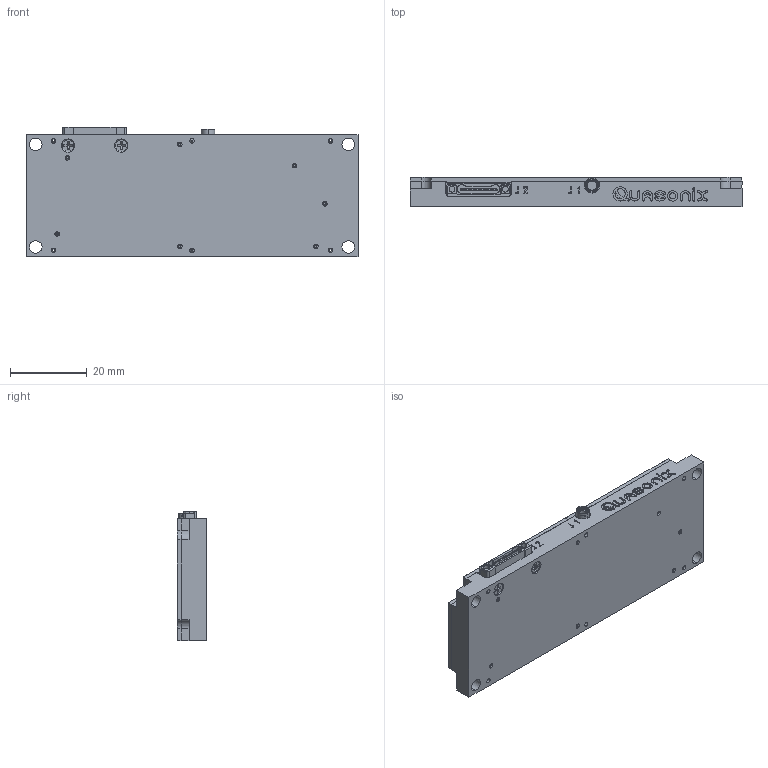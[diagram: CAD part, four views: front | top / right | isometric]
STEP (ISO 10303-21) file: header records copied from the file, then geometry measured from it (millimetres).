
FILE_DESCRIPTION (( 'STEP AP203' ), '1' );
FILE_NAME ('01AA_9-19-13.STEP', '2013-09-19T19:56:14', ( 'Quasonix' ), ( '' ), 'SwSTEP 2.0', 'SolidWorks 2012', '' );
FILE_SCHEMA (( 'CONFIG_CONTROL_DESIGN' ));
Length unit declared in the file: inch
Products named in the file (1): 01AA_9-19-13
Bounding box: 86.36 x 7.62 x 33.66 mm (x, y, z)
Surface area: 8781.8 mm2 (no closed solid volume)
Topology: 0 solids, 22 shells, 455 faces, 1756 edges, 1334 vertices
Faces by surface type: plane 231, cylinder 114, bspline 74, cone 36
Entity records: 19976 total; most frequent: CARTESIAN_POINT 5439, DIRECTION 2858, ORIENTED_EDGE 2758, EDGE_CURVE 1756, VERTEX_POINT 1334, VECTOR 1056, LINE 1056, AXIS2_PLACEMENT_3D 901
